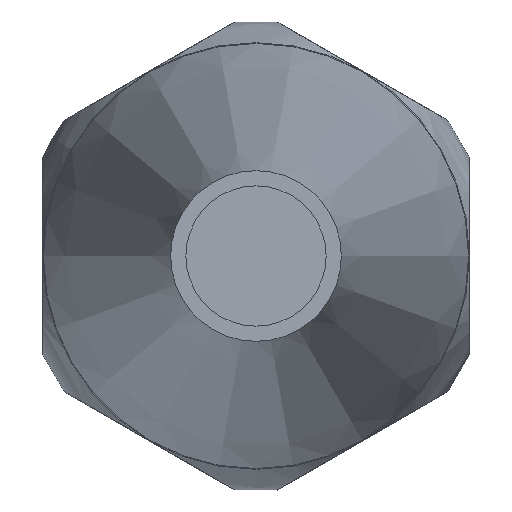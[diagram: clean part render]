
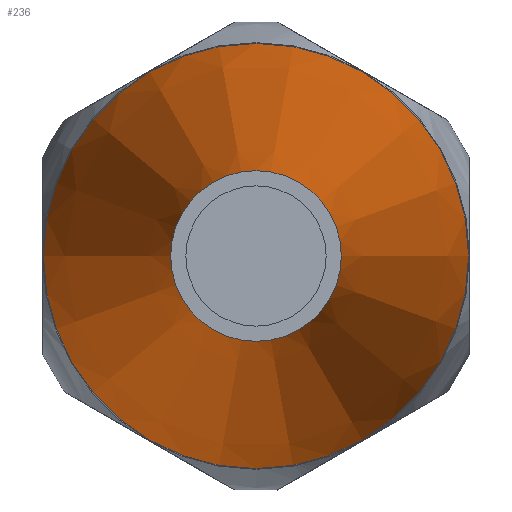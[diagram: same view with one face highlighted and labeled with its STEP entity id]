
A CAD part, left-side view. The second image highlights one B-rep face of the part: STEP entity #236.
In plain terms, the highlighted conical face has half-angle 8.892 degrees and reference radius 6.976 mm.
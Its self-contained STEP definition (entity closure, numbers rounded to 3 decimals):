
#236 = ADVANCED_FACE( '', ( #510, #511 ), #512, .T. );
#510 = FACE_BOUND( '', #819, .T. );
#511 = FACE_OUTER_BOUND( '', #820, .T. );
#512 = CONICAL_SURFACE( '', #821, 6.976, 0.155 );
#819 = EDGE_LOOP( '', ( #1376 ) );
#820 = EDGE_LOOP( '', ( #1377 ) );
#821 = AXIS2_PLACEMENT_3D( '', #1378, #1379, #1380 );
#1376 = ORIENTED_EDGE( '', *, *, #1473, .T. );
#1377 = ORIENTED_EDGE( '', *, *, #1589, .F. );
#1378 = CARTESIAN_POINT( '', ( -17.509, 0., 0. ) );
#1379 = DIRECTION( '', ( 1., 0., 0. ) );
#1380 = DIRECTION( '', ( 0., -1., 0. ) );
#1473 = EDGE_CURVE( '', #1724, #1724, #1725, .T. );
#1589 = EDGE_CURVE( '', #1897, #1897, #1898, .T. );
#1724 = VERTEX_POINT( '', #2061 );
#1725 = CIRCLE( '', #2062, 2.8 );
#1897 = VERTEX_POINT( '', #2470 );
#1898 = CIRCLE( '', #2471, 6.976 );
#2061 = CARTESIAN_POINT( '', ( -44.2, -2.8, 0. ) );
#2062 = AXIS2_PLACEMENT_3D( '', #2819, #2820, #2821 );
#2470 = CARTESIAN_POINT( '', ( -17.509, -6.976, 0. ) );
#2471 = AXIS2_PLACEMENT_3D( '', #2982, #2983, #2984 );
#2819 = CARTESIAN_POINT( '', ( -44.2, 0., 0. ) );
#2820 = DIRECTION( '', ( 1., 0., 0. ) );
#2821 = DIRECTION( '', ( 0., -1., 0. ) );
#2982 = CARTESIAN_POINT( '', ( -17.509, 0., 0. ) );
#2983 = DIRECTION( '', ( 1., 0., 0. ) );
#2984 = DIRECTION( '', ( 0., -1., 0. ) );
